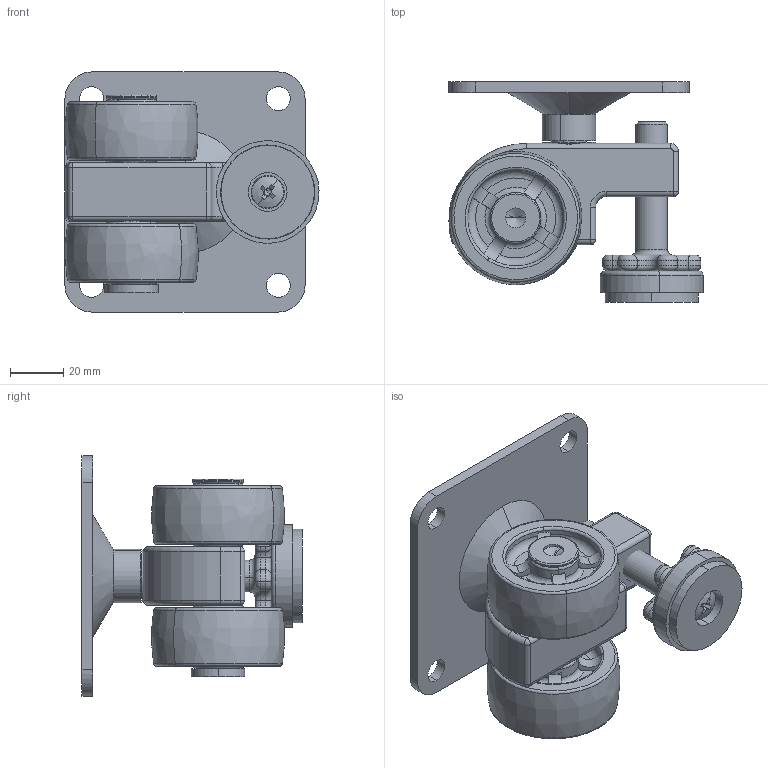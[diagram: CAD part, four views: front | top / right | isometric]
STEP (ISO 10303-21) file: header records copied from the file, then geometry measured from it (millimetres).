
FILE_DESCRIPTION (( 'STEP AP203' ), '1' );
FILE_NAME ('C03-1-400F.STEP', '2024-08-15T09:25:51', ( 'daohangxitong.com' ), ( 'daohangxitong.com' ), 'SwSTEP 2.0', 'SolidWorks 2020', '' );
FILE_SCHEMA (( 'CONFIG_CONTROL_DESIGN' ));
Length unit declared in the file: millimetre
Products named in the file (1): C03-1-400F
Bounding box: 95.24 x 82.49 x 90 mm (x, y, z)
Volume: 178138.2 mm3; surface area: 67863.2 mm2
Topology: 12 solids, 12 shells, 472 faces, 1137 edges, 693 vertices
Faces by surface type: cylinder 153, plane 147, torus 128, cone 20, bspline 16, sphere 8
Entity records: 15747 total; most frequent: CARTESIAN_POINT 4630, DIRECTION 2477, ORIENTED_EDGE 2242, EDGE_CURVE 1121, AXIS2_PLACEMENT_3D 1057, VERTEX_POINT 693, CIRCLE 600, EDGE_LOOP 522
